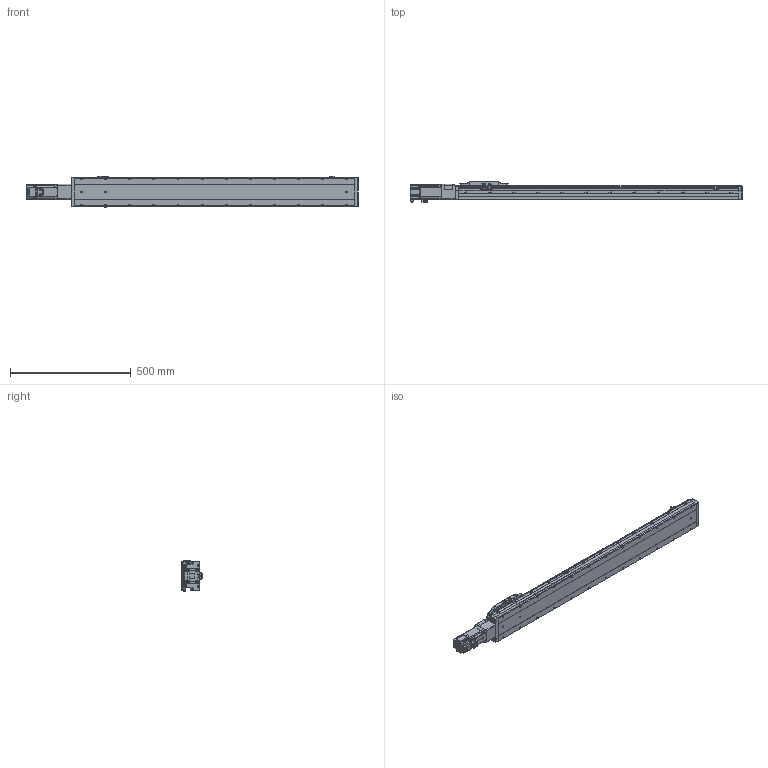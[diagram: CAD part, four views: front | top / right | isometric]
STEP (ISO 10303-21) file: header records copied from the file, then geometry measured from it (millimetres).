
FILE_DESCRIPTION (( 'STEP AP214' ), '1' );
FILE_NAME ('CTH12-L10-S950-BC-C40（简）.STEP', '2023-02-06T05:22:22', ( '' ), ( '' ), 'SwSTEP 2.0', 'SolidWorks 2018', '' );
FILE_SCHEMA (( 'AUTOMOTIVE_DESIGN' ));
Length unit declared in the file: millimetre
Products named in the file (23): 内六角圆柱头螺钉M3; 内六角圆柱头螺钉M3-1; PM-Y45; CTH12覜茼え; CTH12; CTH12-BL_body_4; CTH12底座-L1161简（950行程）; 400W萇儂; 内六角圆柱头螺钉M3-2; M5蹟隊; 蚐郲; CTH12_body_3; CTH12-BC-06-T40（cth8-bc-06-t40-G）_1; 嫖萇羲壽郪磁2; CTH12-L10-S950-BC-C40（简）; hex nuts, style 1-grades ab gb_GB_FASTENER_NUT_SNAB1 M3-N; CTH嫖萇羲壽假蚾啣; CTH12萇儂釱; CTH12-BC-03_1; CTH12賑怢郪磁; 嫖萇羲壽郪磁1333; CTH12賑怢ㄗ潠ㄘ; 湮賑怢  裔赽-1(CTH12)賑怢
Assembly tree (43 placements, depth 4):
  CTH12-L10-S950-BC-C40（简）
    CTH12底座-L1161简（950行程）
    蚐郲  x2
    CTH12-BL_body_4
    CTH12_body_3
    CTH12賑怢郪磁
      CTH12
        湮賑怢  裔赽-1(CTH12)賑怢
        CTH12賑怢ㄗ潠ㄘ
    CTH12覜茼え
    嫖萇羲壽郪磁2
      CTH嫖萇羲壽假蚾啣
      PM-Y45
      内六角圆柱头螺钉M3-1  x2
      内六角圆柱头螺钉M3-2  x2
      hex nuts, style 1-grades ab gb_GB_FASTENER_NUT_SNAB1 M3-N  x2
    CTH12萇儂釱
      CTH12-BC-03_1
      CTH12-BC-06-T40（cth8-bc-06-t40-G）_1
    嫖萇羲壽郪磁1333  x2
      CTH嫖萇羲壽假蚾啣
      PM-Y45
      内六角圆柱头螺钉M3-2
      内六角圆柱头螺钉M3-1
      hex nuts, style 1-grades ab gb_GB_FASTENER_NUT_SNAB1 M3-N
    内六角圆柱头螺钉M3  x6
    400W萇儂
    M5蹟隊  x4
Bounding box: 1375.8 x 86.5 x 131.52 mm (x, y, z)
Volume: 8027367.2 mm3; surface area: 729563.8 mm2
Topology: 45 solids, 47 shells, 3032 faces, 7532 edges, 4725 vertices
Faces by surface type: plane 1488, cylinder 905, cone 371, bspline 140, torus 124, sphere 4
Entity records: 94672 total; most frequent: CARTESIAN_POINT 32270, ORIENTED_EDGE 12166, DIRECTION 11878, EDGE_CURVE 6083, AXIS2_PLACEMENT_3D 4173, VERTEX_POINT 3829, VECTOR 3532, LINE 3532
